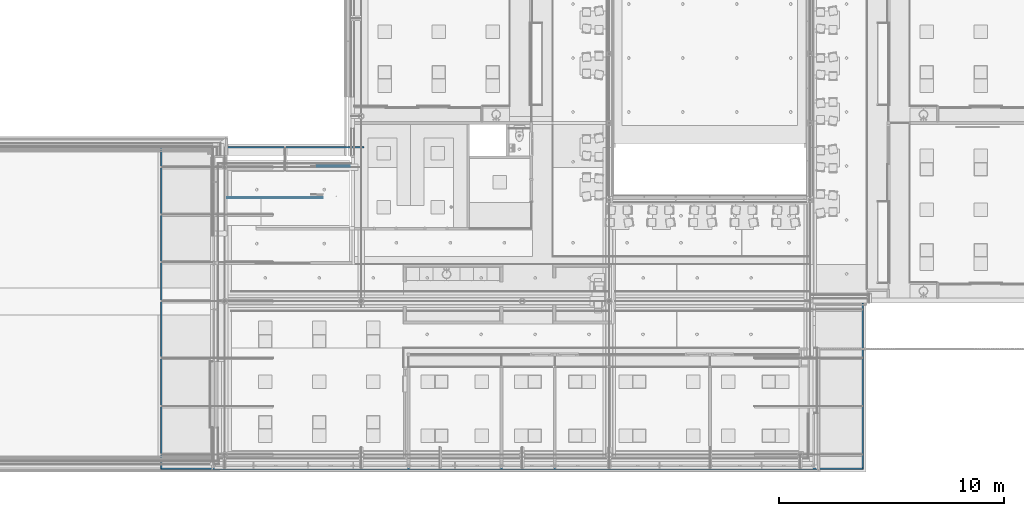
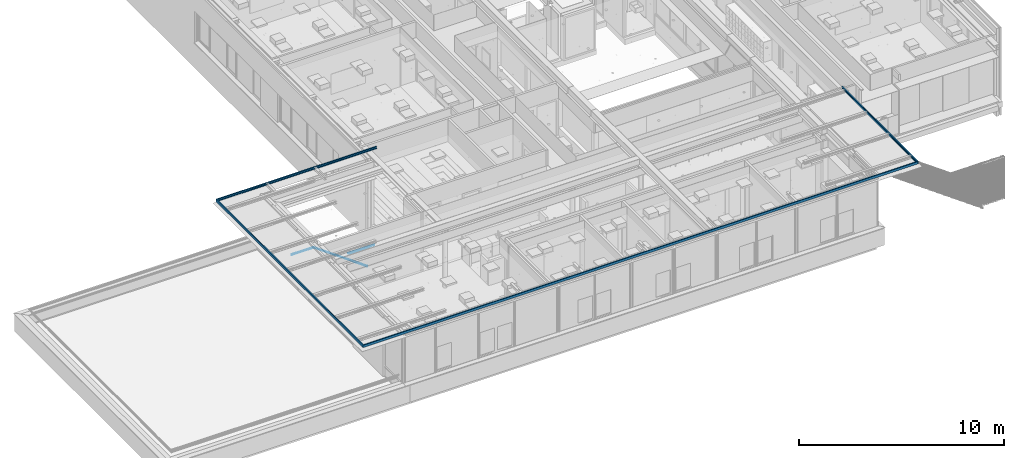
# One storey, part 15 of 260: 7 beams.
"""IFC2X3 building model written with IfcOpenShell, lengths in millimetres."""

from ifc_helpers import new_model, entity, si_unit, converted_unit, derived_unit, money_unit, direction, frame, origin_with_axes, place, context, subcontext, project, spatial, faceted_brep, material, type_object, element, save


model = new_model("IFC2X3")

# Units and contexts
model_context = context("Model", 3, precision=0.01, world=origin_with_axes(), true_north=direction((0.0, 1.0)))
plan_context = context("Plan", 3, precision=0.01, world=origin_with_axes(), true_north=direction((0.0, 1.0)))
body_context = subcontext(model_context, "Body", "Model", "MODEL_VIEW")
ifc_project = project(units=[si_unit("LENGTHUNIT", "METRE", prefix="MILLI"), si_unit("AREAUNIT", "SQUARE_METRE"), si_unit("VOLUMEUNIT", "CUBIC_METRE"), converted_unit("PLANEANGLEUNIT", "DEGREE", entity("IfcPlaneAngleMeasure", 0.0174532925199), si_unit("PLANEANGLEUNIT", "RADIAN"), dimensions=[0, 0, 0, 0, 0, 0, 0]), money_unit("EUR"), converted_unit("TIMEUNIT", "Year", entity("IfcTimeMeasure", 31556926.0), si_unit("TIMEUNIT", "SECOND"), dimensions=[0, 0, 1, 0, 0, 0, 0]), si_unit("MASSUNIT", "GRAM", prefix="KILO"), si_unit("THERMODYNAMICTEMPERATUREUNIT", "DEGREE_CELSIUS"), si_unit("LUMINOUSINTENSITYUNIT", "LUMEN"), si_unit("ENERGYUNIT", "JOULE", prefix="MEGA"), derived_unit("THERMALCONDUCTANCEUNIT", [(si_unit("POWERUNIT", "WATT"), 1), (si_unit("LENGTHUNIT", "METRE"), -1), (si_unit("THERMODYNAMICTEMPERATUREUNIT", "KELVIN"), -1)]), derived_unit("SPECIFICHEATCAPACITYUNIT", [(si_unit("ENERGYUNIT", "JOULE"), 1), (si_unit("MASSUNIT", "GRAM", prefix="KILO"), -1), (si_unit("THERMODYNAMICTEMPERATUREUNIT", "KELVIN"), -1)]), derived_unit("MASSDENSITYUNIT", [(si_unit("MASSUNIT", "GRAM", prefix="KILO"), 1), (si_unit("VOLUMEUNIT", "CUBIC_METRE"), -1)])], contexts=[model_context, plan_context])

# Site, building, storey
site_placement = place(None, origin_with_axes())
site = spatial("IfcSite", under=ifc_project, at=site_placement, Name="Site", CompositionType="ELEMENT")
building_placement = place(site_placement, origin_with_axes())
building = spatial("IfcBuilding", under=site, at=building_placement, Name="Naam gebouw", CompositionType="ELEMENT")
storey_placement = place(building_placement, frame((0.0, 0.0, 3960.0), z_axis=(0.0, 0.0, 1.0), x_axis=(1.0, 0.0, 0.0)))
storey = spatial("IfcBuildingStorey", under=building, at=storey_placement, Name="verdieping", CompositionType="ELEMENT", Elevation=3960.0)

# Beams
ifc_material_1 = material(Name="Metaal - RVS")
beam_type_1 = type_object("IfcBeamType", Name="Metaal - RVS 40 x 20", PredefinedType="BEAM")
beam_1_placement = place(storey_placement, frame((22615.0, 18130.0, -990.0), z_axis=(0.0, 0.0, 1.0), x_axis=(0.0, -1.0, 0.0)))
element("IfcBeam", 1, at=beam_1_placement, inside=storey, type_object=beam_type_1, material=ifc_material_1, Name="28_Balk-x", ObjectType="BEAM", context=body_context, shape_type="Brep", body=[
    faceted_brep([(20.0, -3.03418019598e-05, 10.0), (20.0, 1450.0, 10.0), (-20.0, 1450.0, 10.0), (-20.0, -3.03417984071e-05, 10.0), (20.0, 6.45090710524, -10.0), (20.0, 1450.0, -10.0), (-20.0, 1450.0, -10.0), (-20.0, 6.45090710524, -10.0)], [[[0, 1, 2, 3]], [[4, 5, 1, 0]], [[2, 1, 5, 6]], [[3, 2, 6, 7]], [[4, 0, 3, 7]], [[7, 6, 5, 4]]]),
])
beam_2_placement = place(storey_placement, frame((22864.9999607, 16730.0, -990.0), z_axis=(0.0, 0.0, 1.0), x_axis=(0.0, 1.0, 0.0)))
element("IfcBeam", 2, at=beam_2_placement, inside=storey, type_object=beam_type_1, material=ifc_material_1, Name="28_Balk-x", ObjectType="BEAM", context=body_context, shape_type="Brep", body=[
    faceted_brep([(-20.0, 3024.55224426, 2190.0), (-20.0, 0.0, 12.3223375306), (20.0, 0.0, 12.3223375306), (20.0, 3024.55224426, 2190.0), (-20.0, 3031.0031817, 2170.0), (-20.0, 0.0, -12.3223375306), (20.0, 0.0, -12.3223375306), (20.0, 3031.0031817, 2170.0)], [[[0, 1, 2, 3]], [[4, 5, 1, 0]], [[1, 5, 6, 2]], [[3, 2, 6, 7]], [[7, 4, 0, 3]], [[7, 6, 5, 4]]]),
])
beam_3_placement = place(storey_placement, frame((18615.0, 16730.0, 1190.0), z_axis=(0.0, 0.0, 1.0), x_axis=(0.0, -1.0, 0.0)))
element("IfcBeam", 3, at=beam_3_placement, inside=storey, type_object=beam_type_1, material=ifc_material_1, Name="28_Balk-x", ObjectType="BEAM", context=body_context, shape_type="Brep", body=[
    faceted_brep([(-20.0, 0.0, -10.0), (-20.0, 1218.99677904, -10.0), (20.0, 1218.99677904, -10.0), (20.0, 0.0, -10.0), (-20.0, 0.0, 10.0), (-20.0, 1225.44771648, 10.0), (20.0, 1225.44771648, 10.0), (20.0, 0.0, 10.0)], [[[0, 1, 2, 3]], [[4, 5, 1, 0]], [[2, 1, 5, 6]], [[3, 2, 6, 7]], [[4, 0, 3, 7]], [[7, 6, 5, 4]]]),
])
ifc_material_2 = material(Name="Metaal - Staal C")
beam_type_2 = type_object("IfcBeamType", Name="UNP140 60 x 140", PredefinedType="BEAM")
beam_4_placement = place(storey_placement, frame((46875.0, 12050.0000337, 4090.0), z_axis=(0.0, 0.0, 1.0), x_axis=(-1.0, 0.0, 0.0)))
element("IfcBeam", 4, at=beam_4_placement, inside=storey, type_object=beam_type_2, material=ifc_material_2, Name="28_Balk-x", ObjectType="BEAM", context=body_context, shape_type="Brep", body=[
    faceted_brep([(-0.204677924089, 7340.00003392, -60.0), (-0.204677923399, 7393.00003392, -60.0), (-0.204677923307, 7400.00003392, -60.0), (-23.0, 7400.00003392, -60.0), (-23.0, 0.0, -60.0), (30.0, 0.0, -60.0), (30.0, 7340.00003392, -60.0), (-0.204677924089, 7340.00003392, -70.0), (-0.204677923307, 7400.00003392, -70.0), (-30.0, 7400.00003392, 70.0), (-0.204677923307, 7400.00003392, 70.0), (-0.204677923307, 7400.00003392, 60.0), (-23.0, 7400.00003392, 60.0), (-30.0, 7400.00003392, -70.0), (-23.0, 0.0, 60.0), (30.0, 0.0, 60.0), (30.0, 0.0, 70.0), (-30.0, 0.0, 70.0), (-30.0, 0.0, -70.0), (30.0, 0.0, -70.0), (30.0, 7340.00003392, -70.0), (30.0, 7340.00003392, 70.0), (-0.204677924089, 7340.00003392, 70.0), (-0.204677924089, 7340.00003392, 60.0), (-0.204677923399, 7393.00003392, 60.0), (30.0, 7340.00003392, 60.0)], [[[0, 1, 2, 3, 4, 5, 6]], [[2, 1, 0, 7, 8]], [[9, 10, 11, 12, 3, 2, 8, 13]], [[4, 3, 12, 14]], [[4, 14, 15, 16, 17, 18, 19, 5]], [[19, 20, 6, 5]], [[7, 0, 6, 20]], [[8, 7, 20, 19, 18, 13]], [[21, 22, 10, 9, 17, 16]], [[11, 10, 22, 23, 24]], [[24, 23, 25, 15, 14, 12, 11]], [[17, 9, 13, 18]], [[15, 25, 21, 16]], [[23, 22, 21, 25]]]),
])
beam_5_placement = place(storey_placement, frame((15685.0, 18970.0, 4090.0), z_axis=(0.0, 0.0, 1.0), x_axis=(0.0, -1.0, 0.0)))
element("IfcBeam", 5, at=beam_5_placement, inside=storey, type_object=beam_type_2, material=ifc_material_2, Name="28_Balk-x", ObjectType="BEAM", context=body_context, shape_type="Brep", body=[
    faceted_brep([(30.0, 9012.25, -70.0), (30.0, 30.0, -70.0), (-30.0, -30.0, -70.0), (-30.0, 9012.25, -70.0), (30.0, 9012.25, -60.0), (30.0, 30.0, -60.0), (30.0, 30.0, 60.0), (30.0, 30.0, 70.0), (-30.0, -30.0, 70.0), (-23.0, -23.0, -60.0), (-23.0, -23.0, 60.0), (-30.0, 9012.25, 70.0), (-23.0, 9012.25, -60.0), (30.0, 9012.25, 70.0), (30.0, 9012.25, 60.0), (-23.0, 9012.25, 60.0)], [[[0, 1, 2, 3]], [[4, 5, 1, 0]], [[6, 7, 8, 2, 1, 5, 9, 10]], [[3, 2, 8, 11]], [[12, 4, 0, 3, 11, 13, 14, 15]], [[12, 9, 5, 4]], [[13, 7, 6, 14]], [[11, 8, 7, 13]], [[15, 10, 9, 12]], [[14, 6, 10, 15]]]),
])
beam_6_placement = place(storey_placement, frame((15685.0, 18970.0, 4090.0), z_axis=(0.0, 0.0, 1.0), x_axis=(-1.0, 0.0, 0.0)))
element("IfcBeam", 6, at=beam_6_placement, inside=storey, type_object=beam_type_2, material=ifc_material_2, Name="28_Balk-x", ObjectType="BEAM", context=body_context, shape_type="Brep", body=[
    faceted_brep([(30.0, 14319.9999998, 70.0), (-30.0, 14259.9999998, 70.0), (-30.0, 30.0, 70.0), (30.0, -30.0, 70.0), (23.0, 14312.9999998, -60.0), (23.0, 14312.9999998, 60.0), (-30.0, 14259.9999998, 60.0), (30.0, 14319.9999998, -70.0), (-30.0, 14259.9999998, -70.0), (-30.0, 14259.9999998, -60.0), (-30.0, 30.0, 60.0), (23.0, -23.0, -60.0), (-30.0, 30.0, -60.0), (-30.0, 30.0, -70.0), (30.0, -30.0, -70.0), (23.0, -23.0, 60.0)], [[[0, 1, 2, 3]], [[4, 5, 6, 1, 0, 7, 8, 9]], [[1, 6, 10, 2]], [[11, 12, 13, 14, 3, 2, 10, 15]], [[7, 0, 3, 14]], [[5, 4, 11, 15]], [[6, 5, 15, 10]], [[8, 7, 14, 13]], [[9, 8, 13, 12]], [[4, 9, 12, 11]]]),
])
beam_7_placement = place(storey_placement, frame((15685.0, 4680.00000017, 4090.0), z_axis=(0.0, 0.0, 1.0), x_axis=(0.0, -1.0, 0.0)))
element("IfcBeam", 7, at=beam_7_placement, inside=storey, type_object=beam_type_2, material=ifc_material_2, Name="28_Balk-x", ObjectType="BEAM", context=body_context, shape_type="Brep", body=[
    faceted_brep([(-30.0, 31190.2046779, 70.0), (-30.0, 29.9999999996, 70.0), (30.0, -29.9999999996, 70.0), (30.0, 31190.2046779, 70.0), (-30.0, 31190.2046779, 60.0), (-30.0, 29.9999999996, 60.0), (-30.0, 29.9999999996, -60.0), (-30.0, 29.9999999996, -70.0), (30.0, -29.9999999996, -70.0), (23.0, -22.9999999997, 60.0), (23.0, -22.9999999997, -60.0), (30.0, 31190.2046779, -70.0), (23.0, 31190.2046779, 60.0), (-30.0, 31190.2046779, -70.0), (-30.0, 31190.2046779, -60.0), (23.0, 31190.2046779, -60.0)], [[[0, 1, 2, 3]], [[4, 5, 1, 0]], [[6, 7, 8, 2, 1, 5, 9, 10]], [[3, 2, 8, 11]], [[12, 4, 0, 3, 11, 13, 14, 15]], [[12, 9, 5, 4]], [[13, 7, 6, 14]], [[11, 8, 7, 13]], [[15, 10, 9, 12]], [[14, 6, 10, 15]]]),
])

save(model, "model.ifc")
